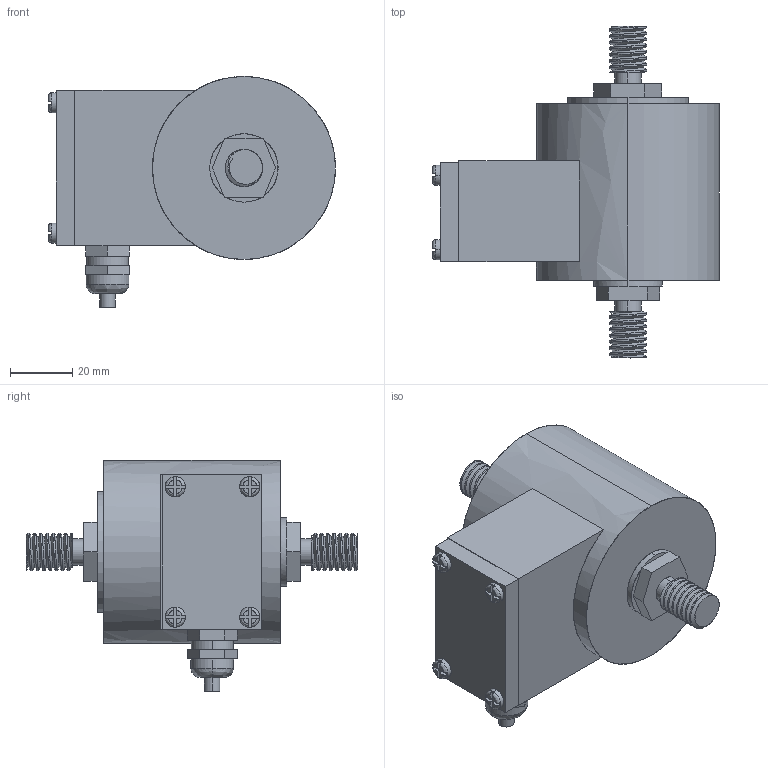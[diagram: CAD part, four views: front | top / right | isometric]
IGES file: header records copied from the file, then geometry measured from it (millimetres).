
Start section: SolidWorks IGES file using analytic representation for surfaces
Global section: file name: O:\16-Entwicklung\Projekte\03_Kraftsensoren\0222_KT1101\01_Mechanik & Gehäuse\01_Solid Works\01_Outline 3D files\KT1101_K_500N.IGS; native system: SolidWorks 2012; preprocessor: SolidWorks 2012; author: AndreB; date: 140423.125521; units: metre
Bounding box: 92.5 x 107 x 74.5 mm (x, y, z)
Surface area: 26518.4 mm2 (no closed solid volume)
Topology: 0 solids, 0 shells, 193 faces, 3749 edges, 3749 vertices
Faces by surface type: bspline 132, revolution 61
